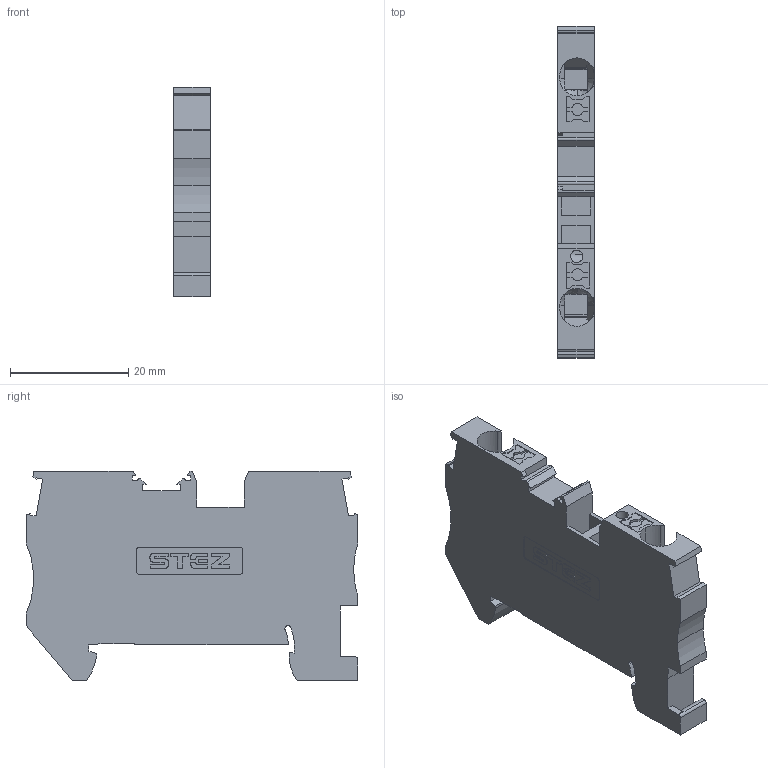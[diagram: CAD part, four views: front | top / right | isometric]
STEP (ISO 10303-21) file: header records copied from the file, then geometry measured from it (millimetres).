
FILE_DESCRIPTION(('TFLEX Exchange Step'),'2;1');
FILE_NAME('14000020_КНБ_4-2.stp', '2025-06-24T10:40:12+03:00',('MVarava'),('Unknown organisation'),'TFLEX Exchange 2023.0','T-FLEX CAD','Unknown authorisation');
FILE_SCHEMA( ('AUTOMOTIVE_DESIGN { 1 0 10303 214 1 1 1 1 }') );
Length unit declared in the file: millimetre
Products named in the file (1): Nodes
Bounding box: 6.15 x 56 x 35.35 mm (x, y, z)
Volume: 8637.9 mm3; surface area: 5583 mm2
Topology: 1 solids, 1 shells, 406 faces, 1207 edges, 813 vertices
Faces by surface type: plane 204, cylinder 194, cone 4, torus 4
Full cylindrical faces by diameter (mm): 2.1 x1
Entity records: 14897 total; most frequent: CARTESIAN_POINT 3855, ORIENTED_EDGE 2414, DIRECTION 2243, EDGE_CURVE 1207, VERTEX_POINT 813, AXIS2_PLACEMENT_3D 780, VECTOR 683, LINE 683
